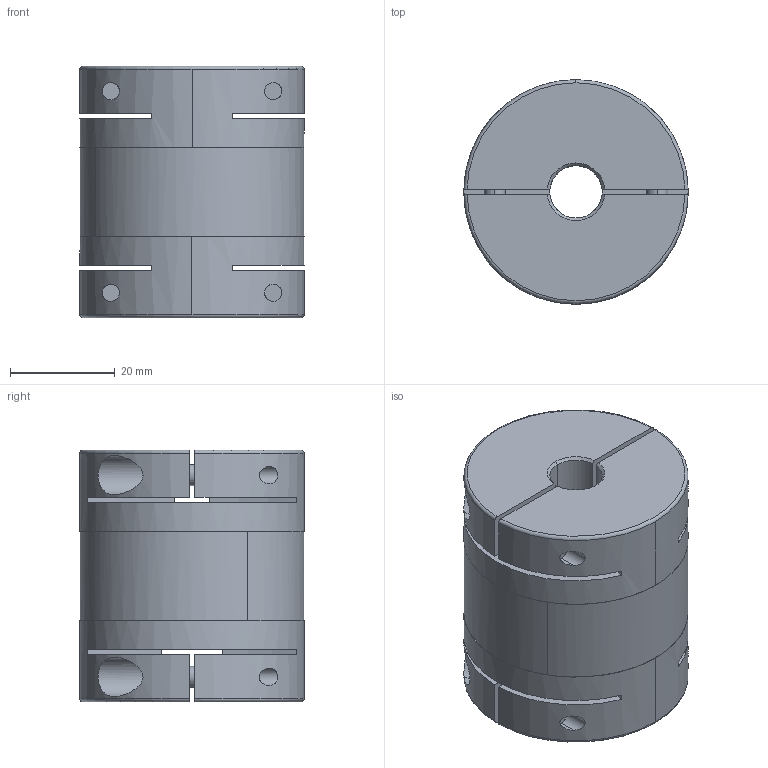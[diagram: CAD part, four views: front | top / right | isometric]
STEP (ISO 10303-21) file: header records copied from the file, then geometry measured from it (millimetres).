
FILE_DESCRIPTION (( 'STEP AP203' ), '1' );
FILE_NAME ('SHR-43C-10X14_203.STEP', '2013-05-19T06:18:31', ( 'Z77' ), ( '' ), 'SwSTEP 2.0', 'SolidWorks 2012', '' );
FILE_SCHEMA (( 'CONFIG_CONTROL_DESIGN' ));
Length unit declared in the file: millimetre
Products named in the file (1): SHR-43C-10X14_203
Bounding box: 42.8 x 42.8 x 48 mm (x, y, z)
Volume: 57685.8 mm3; surface area: 21224.7 mm2
Topology: 1 solids, 1 shells, 451 faces, 1146 edges, 709 vertices
Faces by surface type: cylinder 164, plane 132, torus 102, cone 29, bspline 24
Entity records: 14958 total; most frequent: CARTESIAN_POINT 3847, DIRECTION 2503, ORIENTED_EDGE 2276, EDGE_CURVE 1138, AXIS2_PLACEMENT_3D 1077, VERTEX_POINT 709, CIRCLE 649, EDGE_LOOP 481
